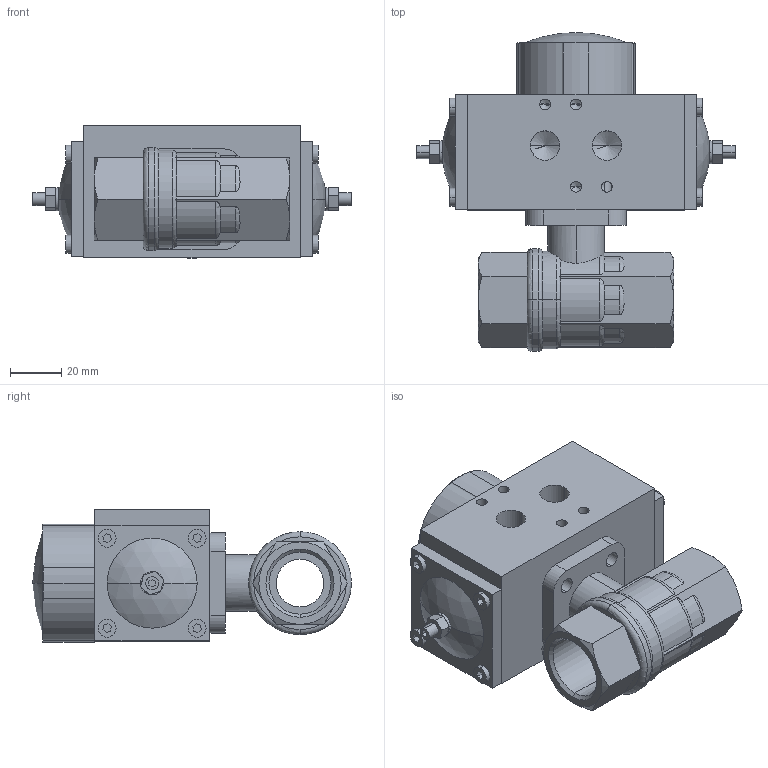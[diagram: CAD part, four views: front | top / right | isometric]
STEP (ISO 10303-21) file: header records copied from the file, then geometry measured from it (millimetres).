
FILE_DESCRIPTION (( 'STEP AP214' ), '1' );
FILE_NAME ('A25-DN20-G3_4+AP0.step', '2011-03-03T09:46:40', ( '' ), ( '' ), 'SwSTEP 2.0', 'SolidWorks 2011', '' );
FILE_SCHEMA (( 'AUTOMOTIVE_DESIGN' ));
Length unit declared in the file: millimetre
Products named in the file (3): AP0_Default<As Machined>; Ballvalve A25-DN20 G3_4; A25-DN20-G3_4+AP0
Assembly tree (2 placements, depth 2):
  A25-DN20-G3_4+AP0
    Ballvalve A25-DN20 G3_4
    AP0_Default<As Machined>
Bounding box: 123.81 x 123.99 x 51.44 mm (x, y, z)
Volume: 363416.6 mm3; surface area: 67413.6 mm2
Topology: 6 solids, 6 shells, 385 faces, 944 edges, 591 vertices
Faces by surface type: plane 207, cylinder 106, cone 45, torus 21, sphere 6
Entity records: 12742 total; most frequent: CARTESIAN_POINT 2604, DIRECTION 1905, ORIENTED_EDGE 1836, EDGE_CURVE 918, AXIS2_PLACEMENT_3D 678, VERTEX_POINT 591, LINE 549, VECTOR 549
